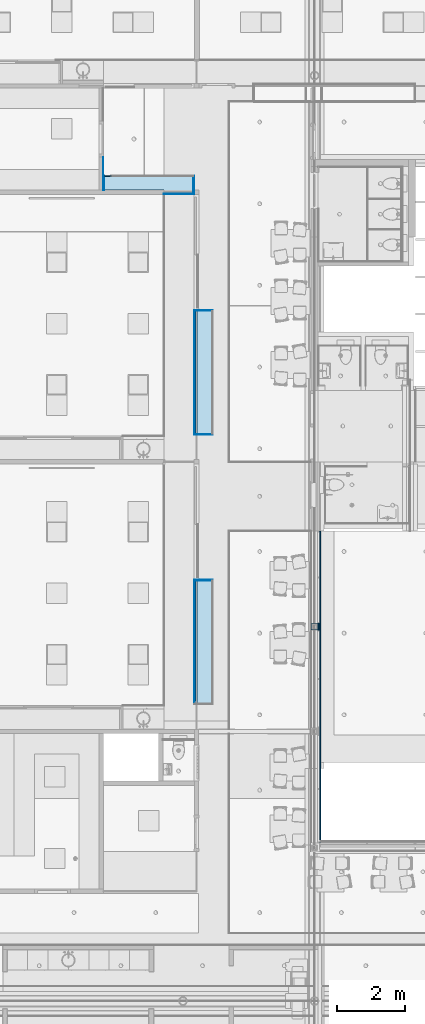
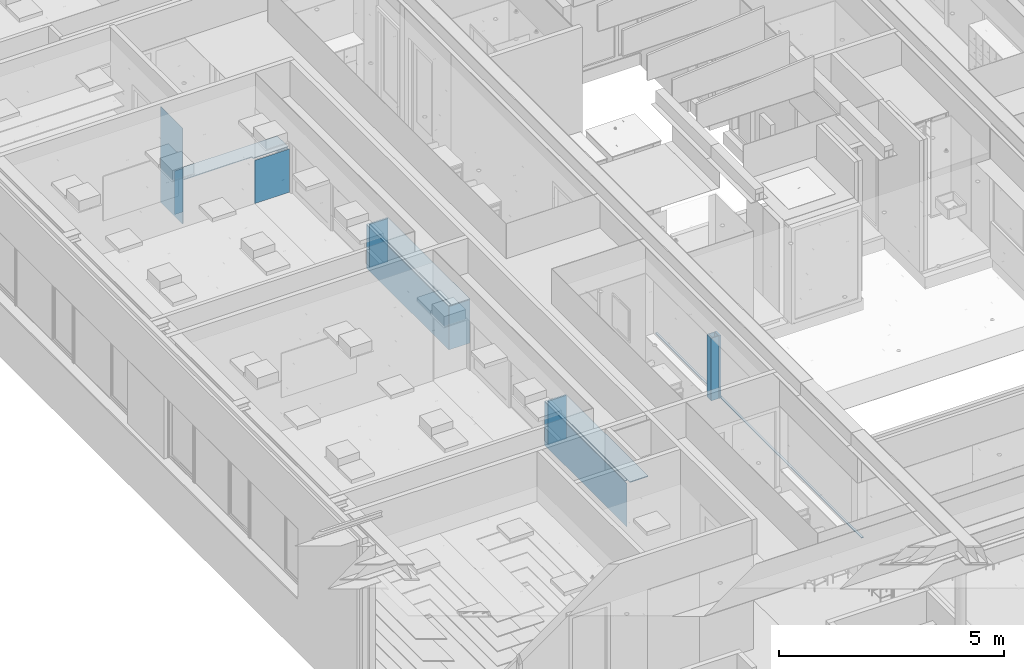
# One storey, part 20 of 260: 18 plates.
"""IFC2X3 building model written with IfcOpenShell, lengths in millimetres."""

import ifcopenshell
import ifcopenshell.guid

model = None  # the IFC model being written
_history = None  # IfcOwnerHistory: only IFC2X3 demands one
_inside = {}  # id of a spatial element -> (the spatial element, [elements in it])
_under = {}  # id of a project, library or spatial element -> (it, [spatial elements below it])
_declared = {}  # id of a project -> (the project, [libraries it declares])
_typed = {}  # id of a type object -> (the type object, [elements of that type])
_made_of = {}  # id of a material, layer set ... -> (it, [elements and type objects made of it])


def new_model(schema):
    """Start an empty IFC model of exactly this schema.

    Asked for "IFC4X3", IfcOpenShell would pick the latest addendum, in which some entities
    have other attributes; the version numbers below select the first issue.
    IFC2X3 requires an IfcOwnerHistory on every rooted entity: one is made here for all.
    """
    global model, _history
    if schema == "IFC4X3":
        model = ifcopenshell.file(schema_version=(4, 3, 0, 0))
    else:
        model = ifcopenshell.file(schema=schema)
    _inside.clear()
    _under.clear()
    _declared.clear()
    _typed.clear()
    _made_of.clear()
    _history = None
    if model.schema == "IFC2X3":
        org = make("IfcOrganization", Name="unknown")
        user = make(
            "IfcPersonAndOrganization",
            ThePerson=make("IfcPerson", FamilyName="unknown"),
            TheOrganization=org,
        )
        app = make(
            "IfcApplication",
            ApplicationDeveloper=org,
            Version="unknown",
            ApplicationFullName="unknown",
            ApplicationIdentifier="unknown",
        )
        _history = make(
            "IfcOwnerHistory",
            OwningUser=user,
            OwningApplication=app,
            ChangeAction="ADDED",
            CreationDate=0,
        )
    return model


def make(cls, **values):
    """One entity of the class cls with the attributes given. An attribute that is None is left unset."""
    return model.create_entity(
        cls, **{name: value for name, value in values.items() if value is not None}
    )


def entity(cls, *values):
    """Any entity or typed value of the class cls, its attributes in the order of the schema. None: left unset."""
    e = model.create_entity(cls)
    for i, value in enumerate(values):
        if value is not None:
            e[i] = value
    return e


def rooted(cls, **values):
    """An entity with a GlobalId (a new one), such as an element, a storey or a relation."""
    return make(cls, GlobalId=ifcopenshell.guid.new(), OwnerHistory=_history, **values)


def si_unit(unit_type, name, prefix=None):
    """IfcSIUnit, for example si_unit("LENGTHUNIT", "METRE", prefix="MILLI")."""
    return make("IfcSIUnit", UnitType=unit_type, Prefix=prefix, Name=name)


def converted_unit(unit_type, name, factor, base, dimensions=None, offset=None):
    """IfcConversionBasedUnit, such as the inch: factor (a typed value) times the base unit."""
    return make(
        "IfcConversionBasedUnit"
        if offset is None
        else "IfcConversionBasedUnitWithOffset",
        ConversionOffset=offset,
        Dimensions=None
        if dimensions is None
        else entity("IfcDimensionalExponents", *dimensions),
        UnitType=unit_type,
        Name=name,
        ConversionFactor=make(
            "IfcMeasureWithUnit", ValueComponent=factor, UnitComponent=base
        ),
    )


def derived_unit(unit_type, elements):
    """IfcDerivedUnit: a product of units, each with its exponent."""
    return make(
        "IfcDerivedUnit",
        Elements=[
            make("IfcDerivedUnitElement", Unit=unit, Exponent=power)
            for unit, power in elements
        ],
        UnitType=unit_type,
    )


def money_unit(currency):
    """IfcMonetaryUnit."""
    return make("IfcMonetaryUnit", Currency=currency)


def assignment(units):
    """IfcUnitAssignment: the units of a project."""
    return None if units is None else make("IfcUnitAssignment", Units=units)


def point(xyz):
    """IfcCartesianPoint."""
    return None if xyz is None else make("IfcCartesianPoint", Coordinates=xyz)


def direction(xyz):
    """IfcDirection."""
    return None if xyz is None else make("IfcDirection", DirectionRatios=xyz)


def frame(location, z_axis=None, x_axis=None):
    """IfcAxis2Placement3D, a coordinate frame: its origin and axes. An axis left out is left unset."""
    return make(
        "IfcAxis2Placement3D",
        Location=point(location),
        Axis=direction(z_axis),
        RefDirection=direction(x_axis),
    )


def origin_with_axes():
    """The frame at (0, 0, 0) with the z axis (0, 0, 1) and the x axis (1, 0, 0) written out."""
    return frame((0.0, 0.0, 0.0), z_axis=(0.0, 0.0, 1.0), x_axis=(1.0, 0.0, 0.0))


def place(relative_to, where):
    """IfcLocalPlacement: puts the frame where relative to a parent placement (None: the world)."""
    return make(
        "IfcLocalPlacement", PlacementRelTo=relative_to, RelativePlacement=where
    )


def context(
    kind, dimensions, precision=None, world=None, true_north=None, identifier=None
):
    """IfcGeometricRepresentationContext, for example the 3D "Model" context."""
    return make(
        "IfcGeometricRepresentationContext",
        ContextIdentifier=identifier,
        ContextType=kind,
        CoordinateSpaceDimension=dimensions,
        Precision=precision,
        WorldCoordinateSystem=world,
        TrueNorth=true_north,
    )


def subcontext(parent, identifier, kind, view, scale=None):
    """IfcGeometricRepresentationSubContext, for example "Body" below "Model"."""
    return make(
        "IfcGeometricRepresentationSubContext",
        ContextIdentifier=identifier,
        ContextType=kind,
        ParentContext=parent,
        TargetScale=scale,
        TargetView=view,
    )


def project(units=None, contexts=None):
    """IfcProject with its units and contexts."""
    return rooted(
        "IfcProject",
        Name="project",
        RepresentationContexts=contexts,
        UnitsInContext=assignment(units),
    )


def spatial(cls, under=None, at=None, **own):
    """A site, building, storey or space (cls), placed at a placement, below another one or the project."""
    s = rooted(cls, ObjectPlacement=at, **own)
    if under is not None:
        _under.setdefault(under.id(), (under, []))[1].append(s)
    return s


def faces_of(points, faces, orient=None, outer=None):
    """IfcFace entities. A face is a list of loops; a loop is a list of indices into points, from 0.

    orient and outer hold one flag for each loop. By default every Orientation is true, the
    first loop of a face is its IfcFaceOuterBound and the others are IfcFaceBound.
    """
    made = []
    for i, loops in enumerate(faces):
        bounds = []
        for j, loop in enumerate(loops):
            is_outer = j == 0 if outer is None else outer[i][j]
            bounds.append(
                make(
                    "IfcFaceOuterBound" if is_outer else "IfcFaceBound",
                    Bound=make("IfcPolyLoop", Polygon=[points[k] for k in loop]),
                    Orientation=True if orient is None else orient[i][j],
                )
            )
        made.append(make("IfcFace", Bounds=bounds))
    return made


def faceted_brep(points, faces, orient=None, outer=None, voids=None):
    """IfcFacetedBrep: a solid bounded by flat faces; with voids (closed shells), ...WithVoids."""
    shared = [point(p) for p in points]
    hull = make("IfcClosedShell", CfsFaces=faces_of(shared, faces, orient, outer))
    if voids is None:
        return make("IfcFacetedBrep", Outer=hull)
    return make(
        "IfcFacetedBrepWithVoids",
        Outer=hull,
        Voids=[
            make(cls, CfsFaces=faces_of(shared, fs, o, b)) for cls, fs, o, b in voids
        ],
    )


def shape(context_of_items, identifier, shape_type, items):
    """IfcShapeRepresentation: the items that make up one representation, for example the "Body"."""
    return make(
        "IfcShapeRepresentation",
        ContextOfItems=context_of_items,
        RepresentationIdentifier=identifier,
        RepresentationType=shape_type,
        Items=items,
    )


def material(Name=None, Category=None):
    """IfcMaterial."""
    return make("IfcMaterial", Name=Name, Category=Category)


def made_of(thing, what):
    """Note that an element or type object is made of a material, layer set ...; save() writes the relation."""
    if what is not None:
        _made_of.setdefault(what.id(), (what, []))[1].append(thing)
    return thing


def type_object(cls, material=None, **own):
    """A type object (cls), such as IfcWallType, which elements share."""
    return made_of(rooted(cls, **own), material)


def element(
    cls,
    number,
    at=None,
    inside=None,
    cuts=None,
    type_object=None,
    material=None,
    context=None,
    identifier="Body",
    shape_type=None,
    held_by="IfcProductDefinitionShape",
    body=None,
    shapes=None,
    **own,
):
    """One element of the class cls, such as IfcWall. Its Tag is "e" and its number.

    at: its placement. inside: the storey or other place that contains it. cuts: it is an
    opening in that element (IfcRelVoidsElement). A single representation is given by context,
    identifier, shape_type and body (its items); several are given by shapes. held_by: the class
    of the entity that holds the representations. save() writes the other relations.
    """
    e = rooted(cls, Tag="e%d" % number, ObjectPlacement=at, **own)
    if body is not None:
        shapes = [shape(context, identifier, shape_type, body)]
    if shapes is not None:
        e.Representation = make(held_by, Representations=shapes)
    if inside is not None:
        _inside.setdefault(inside.id(), (inside, []))[1].append(e)
    if cuts is not None:
        rooted(
            "IfcRelVoidsElement", RelatingBuildingElement=cuts, RelatedOpeningElement=e
        )
    if type_object is not None:
        _typed.setdefault(type_object.id(), (type_object, []))[1].append(e)
    return made_of(e, material)


def aggregate(whole, parts):
    """IfcRelAggregates: a whole, such as a stair, and the parts it consists of."""
    return rooted("IfcRelAggregates", RelatingObject=whole, RelatedObjects=parts)


def save(model, path):
    """Write the relations noted so far, then the file.

    IfcRelAggregates (storeys below a building ...), IfcRelContainedInSpatialStructure (elements
    in a storey), IfcRelDefinesByType, IfcRelAssociatesMaterial and IfcRelDeclares: one each for
    every whole, place, type object, material and project.
    """
    for whole, parts in _under.values():
        aggregate(whole, parts)
    for where, things in _inside.values():
        rooted(
            "IfcRelContainedInSpatialStructure",
            RelatedElements=things,
            RelatingStructure=where,
        )
    for kind, things in _typed.values():
        rooted("IfcRelDefinesByType", RelatedObjects=things, RelatingType=kind)
    for what, things in _made_of.values():
        rooted("IfcRelAssociatesMaterial", RelatedObjects=things, RelatingMaterial=what)
    for by, libraries in _declared.values():
        rooted("IfcRelDeclares", RelatingContext=by, RelatedDefinitions=libraries)
    model.write(path)


model = new_model("IFC2X3")

# Units and contexts
model_context = context("Model", 3, precision=0.01, world=origin_with_axes(), true_north=direction((0.0, 1.0)))
plan_context = context("Plan", 3, precision=0.01, world=origin_with_axes(), true_north=direction((0.0, 1.0)))
body_context = subcontext(model_context, "Body", "Model", "MODEL_VIEW")
ifc_project = project(units=[si_unit("LENGTHUNIT", "METRE", prefix="MILLI"), si_unit("AREAUNIT", "SQUARE_METRE"), si_unit("VOLUMEUNIT", "CUBIC_METRE"), converted_unit("PLANEANGLEUNIT", "DEGREE", entity("IfcPlaneAngleMeasure", 0.0174532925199), si_unit("PLANEANGLEUNIT", "RADIAN"), dimensions=[0, 0, 0, 0, 0, 0, 0]), money_unit("EUR"), converted_unit("TIMEUNIT", "Year", entity("IfcTimeMeasure", 31556926.0), si_unit("TIMEUNIT", "SECOND"), dimensions=[0, 0, 1, 0, 0, 0, 0]), si_unit("MASSUNIT", "GRAM", prefix="KILO"), si_unit("THERMODYNAMICTEMPERATUREUNIT", "DEGREE_CELSIUS"), si_unit("LUMINOUSINTENSITYUNIT", "LUMEN"), si_unit("ENERGYUNIT", "JOULE", prefix="MEGA"), derived_unit("THERMALCONDUCTANCEUNIT", [(si_unit("POWERUNIT", "WATT"), 1), (si_unit("LENGTHUNIT", "METRE"), -1), (si_unit("THERMODYNAMICTEMPERATUREUNIT", "KELVIN"), -1)]), derived_unit("SPECIFICHEATCAPACITYUNIT", [(si_unit("ENERGYUNIT", "JOULE"), 1), (si_unit("MASSUNIT", "GRAM", prefix="KILO"), -1), (si_unit("THERMODYNAMICTEMPERATUREUNIT", "KELVIN"), -1)]), derived_unit("MASSDENSITYUNIT", [(si_unit("MASSUNIT", "GRAM", prefix="KILO"), 1), (si_unit("VOLUMEUNIT", "CUBIC_METRE"), -1)])], contexts=[model_context, plan_context])

# Site, building, storey
site_placement = place(None, origin_with_axes())
site = spatial("IfcSite", under=ifc_project, at=site_placement, Name="Site", CompositionType="ELEMENT")
building_placement = place(site_placement, origin_with_axes())
building = spatial("IfcBuilding", under=site, at=building_placement, Name="Naam gebouw", CompositionType="ELEMENT")
storey_placement = place(building_placement, frame((0.0, 0.0, 3960.0), z_axis=(0.0, 0.0, 1.0), x_axis=(1.0, 0.0, 0.0)))
storey = spatial("IfcBuildingStorey", under=building, at=storey_placement, Name="verdieping", CompositionType="ELEMENT", Elevation=3960.0)

# Plates
ifc_material_1 = material(Name="Hout - Lockers")
plate_type_1 = type_object("IfcPlateType", Name="Hout - Lockers 1175", PredefinedType="SHEET")
for number, where, z_axis, x_axis, name in (
    (1, (32075.0, 24505.5, 0.0), (0.0, 0.0, 1.0), (1.0, 0.0, 0.0), "72_72 vaste inrichting"),
    (2, (32075.0, 32430.5, 0.0), (0.0, 0.0, 1.0), (1.0, 0.0, 0.0), "72_72 vaste inrichting"),
):
    element("IfcPlate", number, at=place(storey_placement, frame(where, z_axis=z_axis, x_axis=x_axis)), inside=storey, type_object=plate_type_1, material=ifc_material_1, Name=name, ObjectType="SHEET", context=body_context, shape_type="Brep", body=[
        faceted_brep([(0.0, 0.0, 1175.0), (0.0, 0.0, 0.0), (0.0, -3662.0, 0.0), (0.0, -3662.0, 1175.0), (12.0, 0.0, 1175.0), (12.0, 0.0, 0.0), (12.0, -3650.0, 0.0), (12.0, -3650.0, 1175.0)], [[[0, 1, 2, 3]], [[4, 5, 1, 0]], [[2, 1, 5, 6]], [[3, 2, 6, 7]], [[4, 0, 3, 7]], [[7, 6, 5, 4]]]),
    ])
plate_1_placement = place(storey_placement, frame((31175.0, 35837.5, 0.0), z_axis=(0.0, 0.0, 1.0), x_axis=(1.0, 0.0, 0.0)))
element("IfcPlate", 3, at=plate_1_placement, inside=storey, type_object=plate_type_1, material=ifc_material_1, Name="72_72 vaste inrichting", ObjectType="SHEET", context=body_context, shape_type="Brep", body=[
    faceted_brep([(0.0, 0.0, 1175.0), (0.0, 0.0, 0.0), (893.0, 0.0, 0.0), (893.0, 0.0, 1175.0), (0.0, 12.0, 1175.0), (0.0, 12.0, 0.0), (893.0, 12.0, 0.0), (893.0, 12.0, 1175.0)], [[[0, 1, 2, 3]], [[4, 5, 1, 0]], [[2, 1, 5, 6]], [[3, 2, 6, 7]], [[4, 0, 3, 7]], [[7, 6, 5, 4]]]),
])
plate_type_2 = type_object("IfcPlateType", Name="Hout - Lockers 25", PredefinedType="SHEET")
plate_2_placement = place(storey_placement, frame((32075.0, 28768.5, 1200.0), z_axis=(0.0, 0.0, 1.0), x_axis=(1.0, 0.0, 0.0)))
element("IfcPlate", 4, at=plate_2_placement, inside=storey, type_object=plate_type_2, material=ifc_material_1, Name="72_72 vaste inrichting", ObjectType="SHEET", context=body_context, shape_type="Brep", body=[
    faceted_brep([(0.0, 0.0, 0.0), (0.0, 0.0, -25.0), (52.5, 0.0, -25.0), (52.5, 0.0, 0.0), (0.0, 3662.0, 0.0), (0.0, 3662.0, -25.0), (52.5, 3662.0, -25.0), (52.5, 3662.0, 0.0)], [[[0, 1, 2, 3]], [[4, 5, 1, 0]], [[2, 1, 5, 6]], [[3, 2, 6, 7]], [[4, 0, 3, 7]], [[7, 6, 5, 4]]]),
])
plate_3_placement = place(storey_placement, frame((32075.0, 20945.5, 1200.0), z_axis=(0.0, 0.0, 1.0), x_axis=(1.0, 0.0, 0.0)))
element("IfcPlate", 5, at=plate_3_placement, inside=storey, type_object=plate_type_2, material=ifc_material_1, Name="72_72 vaste inrichting", ObjectType="SHEET", context=body_context, shape_type="Brep", body=[
    faceted_brep([(0.0, 0.0, 0.0), (0.0, 0.0, -25.0), (56.0, 0.0, -25.0), (56.0, 0.0, 0.0), (0.0, 3560.0, 0.0), (0.0, 3560.0, -25.0), (56.0, 3560.0, -25.0), (56.0, 3560.0, 0.0)], [[[0, 1, 2, 3]], [[4, 5, 1, 0]], [[2, 1, 5, 6]], [[3, 2, 6, 7]], [[4, 0, 3, 7]], [[7, 6, 5, 4]]]),
])
ifc_material_2 = material(Name="ALG - LICHTE SCHEIDINGSWAND - master")
plate_type_3 = type_object("IfcPlateType", Name="ALG - LICHTE SCHEIDINGSWAND - master 2600", PredefinedType="SHEET")
plate_4_placement = place(storey_placement, frame((29388.0, 35962.5, 0.0), z_axis=(0.0, 0.0, 1.0), x_axis=(1.0, 0.0, 0.0)))
element("IfcPlate", 6, at=plate_4_placement, inside=storey, type_object=plate_type_3, material=ifc_material_2, Name="72_72 vaste inrichting", ObjectType="SHEET", context=body_context, shape_type="Brep", body=[
    faceted_brep([(0.0, 0.0, 2600.0), (0.0, 0.0, 0.0), (12.0, 0.0, 0.0), (12.0, 0.0, 2600.0), (0.0, 968.000017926, 2600.0), (0.0, 968.000017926, 0.0), (12.0, 968.000017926, 0.0), (12.0, 968.000017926, 2600.0)], [[[0, 1, 2, 3]], [[4, 5, 1, 0]], [[2, 1, 5, 6]], [[3, 2, 6, 7]], [[4, 0, 3, 7]], [[7, 6, 5, 4]]]),
])
plate_type_4 = type_object("IfcPlateType", Name="ALG - LICHTE SCHEIDINGSWAND - master 25", PredefinedType="SHEET")
plate_5_placement = place(storey_placement, frame((35745.0, 16774.9999672, 900.0), z_axis=(0.0, 0.0, 1.0), x_axis=(1.0, 0.0, 0.0)))
element("IfcPlate", 7, at=plate_5_placement, inside=storey, type_object=plate_type_4, material=ifc_material_2, Name="72_72 vaste inrichting", ObjectType="SHEET", context=body_context, shape_type="Brep", body=[
    faceted_brep([(0.0, 0.0, 0.0), (0.0, 0.0, -25.0), (50.0000208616, 0.0, -25.0), (50.0000208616, 0.0, 0.0), (0.0, 9165.00003278, 0.0), (0.0, 9165.00003278, -25.0), (50.0000208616, 9165.00003278, -25.0), (50.0000208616, 9165.00003278, 0.0)], [[[0, 1, 2, 3]], [[4, 5, 1, 0]], [[2, 1, 5, 6]], [[3, 2, 6, 7]], [[4, 0, 3, 7]], [[7, 6, 5, 4]]]),
])
plate_type_5 = type_object("IfcPlateType", Name="Hout - Lockers 1178", PredefinedType="SHEET")
plate_6_placement = place(storey_placement, frame((32144.0, 24483.5, 0.0), z_axis=(0.0, 0.0, 1.0), x_axis=(1.0, 0.0, 0.0)))
element("IfcPlate", 8, at=plate_6_placement, inside=storey, type_object=plate_type_5, material=ifc_material_1, Name="72_72 vaste inrichting", ObjectType="SHEET", context=body_context, shape_type="Brep", body=[
    faceted_brep([(0.0, 0.0, 1178.0), (0.0, 0.0, 0.0), (474.0, 0.0, 0.0), (474.0, 0.0, 1178.0), (0.0, 22.0, 1178.0), (0.0, 22.0, 0.0), (474.0, 22.0, 0.0), (474.0, 22.0, 1178.0)], [[[0, 1, 2, 3]], [[4, 5, 1, 0]], [[2, 1, 5, 6]], [[3, 2, 6, 7]], [[4, 0, 3, 7]], [[7, 6, 5, 4]]]),
])
plate_7_placement = place(storey_placement, frame((32075.0, 28768.5, 0.0), z_axis=(0.0, 0.0, 1.0), x_axis=(1.0, 0.0, 0.0)))
element("IfcPlate", 9, at=plate_7_placement, inside=storey, type_object=plate_type_5, material=ifc_material_1, Name="72_72 vaste inrichting", ObjectType="SHEET", context=body_context, shape_type="Brep", body=[
    faceted_brep([(0.0, 0.0, 1178.0), (0.0, 0.0, 0.0), (543.0, 0.0, 0.0), (543.0, 0.0, 1178.0), (22.0, 22.0, 1178.0), (22.0, 22.0, 0.0), (543.0, 22.0, 0.0), (543.0, 22.0, 1178.0)], [[[0, 1, 2, 3]], [[4, 5, 1, 0]], [[2, 1, 5, 6]], [[3, 2, 6, 7]], [[4, 0, 3, 7]], [[7, 6, 5, 4]]]),
])
plate_8_placement = place(storey_placement, frame((32144.0, 32408.5, 0.0), z_axis=(0.0, 0.0, 1.0), x_axis=(1.0, 0.0, 0.0)))
element("IfcPlate", 10, at=plate_8_placement, inside=storey, type_object=plate_type_5, material=ifc_material_1, Name="72_72 vaste inrichting", ObjectType="SHEET", context=body_context, shape_type="Brep", body=[
    faceted_brep([(0.0, 0.0, 1178.0), (0.0, 0.0, 0.0), (474.0, 0.0, 0.0), (474.0, 0.0, 1178.0), (0.0, 22.0, 1178.0), (0.0, 22.0, 0.0), (474.0, 22.0, 0.0), (474.0, 22.0, 1178.0)], [[[0, 1, 2, 3]], [[4, 5, 1, 0]], [[2, 1, 5, 6]], [[3, 2, 6, 7]], [[4, 0, 3, 7]], [[7, 6, 5, 4]]]),
])
plate_9_placement = place(storey_placement, frame((29422.0, 36362.5000293, 0.0), z_axis=(0.0, 0.0, 1.0), x_axis=(1.0, 0.0, 0.0)))
element("IfcPlate", 11, at=plate_9_placement, inside=storey, type_object=plate_type_5, material=ifc_material_1, Name="72_72 vaste inrichting", ObjectType="SHEET", context=body_context, shape_type="Brep", body=[
    faceted_brep([(0.0, 0.0, 1178.0), (0.0, 0.0, 0.0), (208.999997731, 0.0, 0.0), (208.999997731, 0.0, 1178.0), (0.0, 18.0, 1178.0), (0.0, 18.0, 0.0), (208.999997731, 18.0, 0.0), (208.999997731, 18.0, 1178.0)], [[[0, 1, 2, 3]], [[4, 5, 1, 0]], [[2, 1, 5, 6]], [[3, 2, 6, 7]], [[4, 0, 3, 7]], [[7, 6, 5, 4]]]),
])
plate_10_placement = place(storey_placement, frame((29422.0, 35962.5, 0.0), z_axis=(0.0, 0.0, 1.0), x_axis=(1.0, 0.0, 0.0)))
element("IfcPlate", 12, at=plate_10_placement, inside=storey, type_object=plate_type_5, material=ifc_material_1, Name="72_72 vaste inrichting", ObjectType="SHEET", context=body_context, shape_type="Brep", body=[
    faceted_brep([(0.0, 0.0, 1178.0), (0.0, 0.0, 0.0), (0.0, 418.000029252, 0.0), (0.0, 418.000029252, 1178.0), (-22.0, 0.0, 1178.0), (-22.0, 0.0, 0.0), (-22.0, 418.000029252, 0.0), (-22.0, 418.000029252, 1178.0)], [[[0, 1, 2, 3]], [[4, 5, 1, 0]], [[2, 1, 5, 6]], [[3, 2, 6, 7]], [[4, 0, 3, 7]], [[7, 6, 5, 4]]]),
])
plate_11_placement = place(storey_placement, frame((32067.9999977, 35906.5000301, 0.0), z_axis=(0.0, 0.0, 1.0), x_axis=(1.0, 0.0, 0.0)))
element("IfcPlate", 13, at=plate_11_placement, inside=storey, type_object=plate_type_5, material=ifc_material_1, Name="72_72 vaste inrichting", ObjectType="SHEET", context=body_context, shape_type="Brep", body=[
    faceted_brep([(0.0, 0.0, 1178.0), (0.0, 0.0, 0.0), (0.0, 473.99999915, 0.0), (0.0, 473.99999915, 1178.0), (-22.0, 0.0, 1178.0), (-22.0, 0.0, 0.0), (-22.0, 473.99999915, 0.0), (-22.0, 473.99999915, 1178.0)], [[[0, 1, 2, 3]], [[4, 5, 1, 0]], [[2, 1, 5, 6]], [[3, 2, 6, 7]], [[4, 0, 3, 7]], [[7, 6, 5, 4]]]),
])
plate_type_6 = type_object("IfcPlateType", Name="Hout - Lockers 22", PredefinedType="SHEET")
for number, where, z_axis, x_axis, name in (
    (14, (32147.5, 20843.5, 1200.0), (0.0, 0.0, 1.0), (1.0, 0.0, 0.0), "72_72 vaste inrichting"),
    (15, (32147.5, 28768.5, 1200.0), (0.0, 0.0, 1.0), (1.0, 0.0, 0.0), "72_72 vaste inrichting"),
):
    element("IfcPlate", number, at=place(storey_placement, frame(where, z_axis=z_axis, x_axis=x_axis)), inside=storey, type_object=plate_type_6, material=ifc_material_1, Name=name, ObjectType="SHEET", context=body_context, shape_type="Brep", body=[
        faceted_brep([(0.0, 0.0, 0.0), (0.0, 0.0, -22.0), (470.5, 0.0, -22.0), (470.5, 0.0, 0.0), (0.0, 3662.0, 0.0), (0.0, 3662.0, -22.0), (470.5, 3662.0, -22.0), (470.5, 3662.0, 0.0)], [[[0, 1, 2, 3]], [[4, 5, 1, 0]], [[2, 1, 5, 6]], [[3, 2, 6, 7]], [[4, 0, 3, 7]], [[7, 6, 5, 4]]]),
    ])
plate_12_placement = place(storey_placement, frame((29400.0, 36380.5000293, 1200.0), z_axis=(0.0, 0.0, 1.0), x_axis=(1.0, 0.0, 0.0)))
element("IfcPlate", 16, at=plate_12_placement, inside=storey, type_object=plate_type_6, material=ifc_material_1, Name="72_72 vaste inrichting", ObjectType="SHEET", context=body_context, shape_type="Brep", body=[
    faceted_brep([(0.0, 0.0, 0.0), (0.0, 0.0, -22.0), (0.0, -418.000029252, -22.0), (0.0, -418.000029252, 0.0), (2667.99999773, 0.0, 0.0), (2667.99999773, 0.0, -22.0), (2667.99999773, -474.000008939, -22.0), (1775.0000178, -474.000008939, -22.0), (1775.0000178, -417.999989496, -22.0), (1775.0000178, -417.999989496, 0.0), (1775.0000178, -474.000008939, 0.0), (2667.99999773, -474.000008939, 0.0)], [[[0, 1, 2, 3]], [[4, 5, 1, 0]], [[2, 1, 5, 6, 7, 8]], [[3, 2, 8, 9]], [[4, 0, 3, 9, 10, 11]], [[11, 6, 5, 4]], [[10, 7, 6, 11]], [[9, 8, 7, 10]]]),
])
plate_type_7 = type_object("IfcPlateType", Name="ALG - LICHTE SCHEIDINGSWAND - master 1700", PredefinedType="SHEET")
plate_13_placement = place(storey_placement, frame((35695.0, 23025.0, 900.0), z_axis=(0.0, 0.0, 1.0), x_axis=(1.0, 0.0, 0.0)))
element("IfcPlate", 17, at=plate_13_placement, inside=storey, type_object=plate_type_7, material=ifc_material_2, Name="72_72 vaste inrichting", ObjectType="SHEET", context=body_context, shape_type="Brep", body=[
    faceted_brep([(0.0, 0.0, 1700.0), (0.0, 0.0, 0.0), (50.0, 0.0, 0.0), (50.0, 0.0, 1700.0), (0.0, 200.0, 1700.0), (0.0, 200.0, 0.0), (50.0, 200.0, 0.0), (50.0, 200.0, 1700.0)], [[[0, 1, 2, 3]], [[4, 5, 1, 0]], [[2, 1, 5, 6]], [[3, 2, 6, 7]], [[4, 0, 3, 7]], [[7, 6, 5, 4]]]),
])
plate_14_placement = place(storey_placement, frame((35495.0, 23030.0, 900.0), z_axis=(0.0, 0.0, 1.0), x_axis=(1.0, 0.0, 0.0)))
element("IfcPlate", 18, at=plate_14_placement, inside=storey, type_object=plate_type_7, material=ifc_material_2, Name="72_72 vaste inrichting", ObjectType="SHEET", context=body_context, shape_type="Brep", body=[
    faceted_brep([(200.000024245, 190.0, 0.0), (200.000024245, 0.0, 0.0), (0.0, 0.0, 0.0), (0.0, 190.0, 0.0), (35.0, 170.0, 0.0), (35.0, 20.0, 0.0), (185.0, 20.0, 0.0), (185.0, 170.0, 0.0), (200.000024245, 190.0, 1700.0), (200.000024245, 0.0, 1700.0), (0.0, 0.0, 1700.0), (0.0, 190.0, 1700.0), (35.0, 170.0, 1700.0), (35.0, 20.0, 1700.0), (185.0, 20.0, 1700.0), (185.0, 170.0, 1700.0)], [[[0, 1, 2, 3], [4, 5, 6, 7]], [[8, 9, 1, 0]], [[9, 10, 2, 1]], [[10, 11, 3, 2]], [[11, 8, 0, 3]], [[4, 12, 13, 5]], [[5, 13, 14, 6]], [[6, 14, 15, 7]], [[7, 15, 12, 4]], [[8, 11, 10, 9], [14, 13, 12, 15]]]),
])

save(model, "model.ifc")
